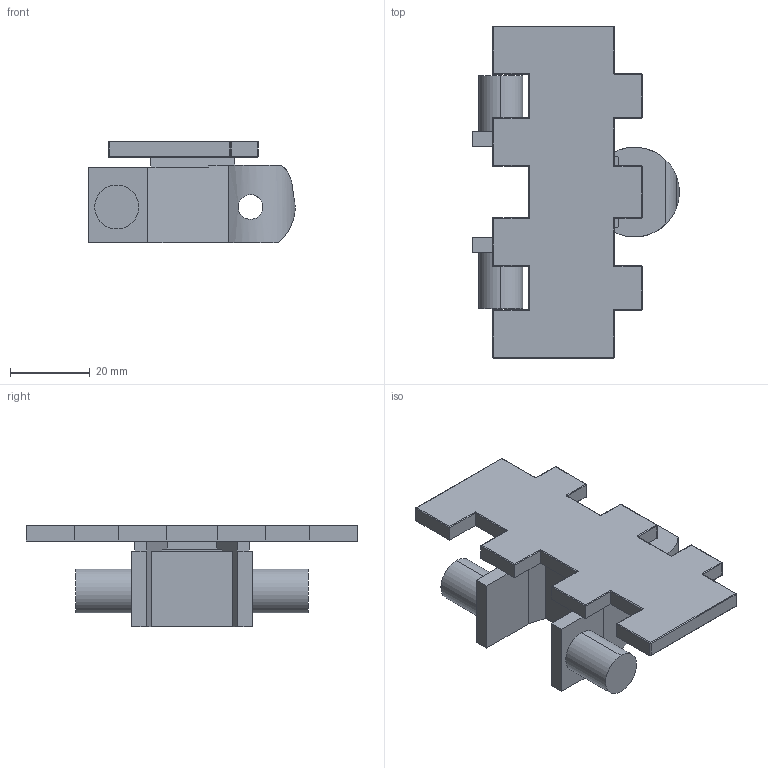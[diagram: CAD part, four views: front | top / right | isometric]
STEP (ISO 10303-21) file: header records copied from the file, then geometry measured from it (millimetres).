
FILE_DESCRIPTION (( 'STEP AP214' ), '1' );
FILE_NAME ('FMPC 5 R500.step', '2017-04-04T13:34:50', ( '' ), ( '' ), 'SwSTEP 2.0', 'SolidWorks 2015', '' );
FILE_SCHEMA (( 'AUTOMOTIVE_DESIGN' ));
Length unit declared in the file: millimetre
Products named in the file (1): FMPC 5 R500
Bounding box: 51.65 x 83 x 25.5 mm (x, y, z)
Volume: 27765.8 mm3; surface area: 12599.4 mm2
Topology: 1 solids, 1 shells, 143 faces, 353 edges, 201 vertices
Faces by surface type: plane 62, cylinder 61, sphere 13, torus 7
Entity records: 4207 total; most frequent: CARTESIAN_POINT 912, ORIENTED_EDGE 680, DIRECTION 677, EDGE_CURVE 340, LINE 229, VECTOR 229, AXIS2_PLACEMENT_3D 224, VERTEX_POINT 201
